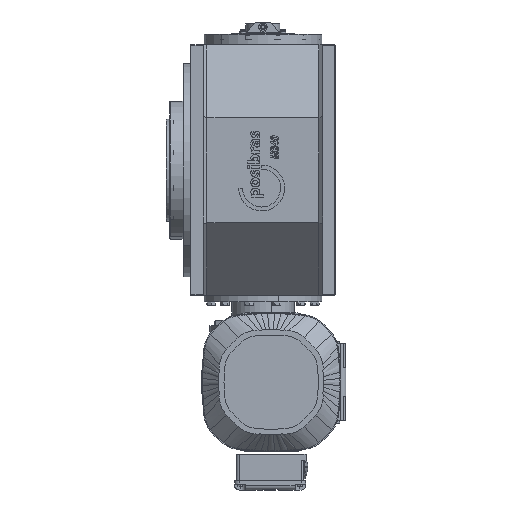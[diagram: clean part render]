
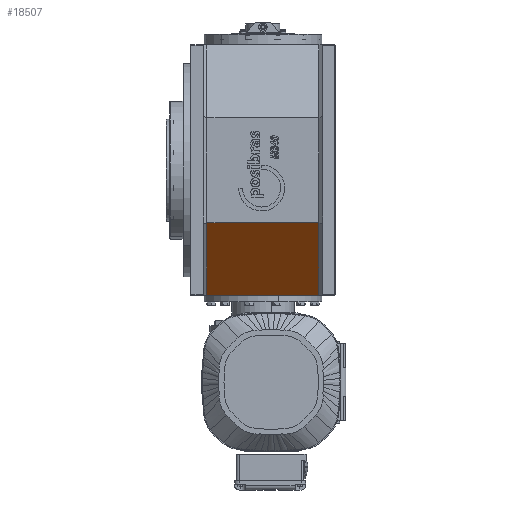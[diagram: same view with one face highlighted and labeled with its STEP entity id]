
A CAD part, left-side view. The second image highlights one B-rep face of the part: STEP entity #18507.
In plain terms, the highlighted planar face has unit normal (-0.707, 0, -0.707).
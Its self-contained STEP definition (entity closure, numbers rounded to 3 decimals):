
#258 = DIRECTION ( 'NONE',  ( 0.707, 0., 0.707 ) ) ;
#2390 = EDGE_CURVE ( 'NONE', #43676, #6210, #71396, .T. ) ;
#6210 = VERTEX_POINT ( 'NONE', #34052 ) ;
#18507 = ADVANCED_FACE ( 'NONE', ( #74086 ), #56337, .F. ) ;
#19381 = CARTESIAN_POINT ( 'NONE',  ( -83.259, 204., -199. ) ) ;
#19668 = LINE ( 'NONE', #47092, #30202 ) ;
#25600 = VERTEX_POINT ( 'NONE', #25604 ) ;
#25604 = CARTESIAN_POINT ( 'NONE',  ( -83.259, 204., -199. ) ) ;
#30202 = VECTOR ( 'NONE', #73461, 1000. ) ;
#31138 = VECTOR ( 'NONE', #32714, 1000. ) ;
#31469 = EDGE_CURVE ( 'NONE', #25600, #43676, #19668, .T. ) ;
#32714 = DIRECTION ( 'NONE',  ( 0.707, 0., -0.707 ) ) ;
#32752 = CARTESIAN_POINT ( 'NONE',  ( -83.259, 26., -199. ) ) ;
#34052 = CARTESIAN_POINT ( 'NONE',  ( -199., 26., -83.259 ) ) ;
#34488 = LINE ( 'NONE', #19381, #31138 ) ;
#36404 = DIRECTION ( 'NONE',  ( -0.707, 0., 0.707 ) ) ;
#43676 = VERTEX_POINT ( 'NONE', #32752 ) ;
#46379 = EDGE_LOOP ( 'NONE', ( #80716, #70784, #60006, #62123 ) ) ;
#47092 = CARTESIAN_POINT ( 'NONE',  ( -83.259, 210., -199. ) ) ;
#50047 = CARTESIAN_POINT ( 'NONE',  ( -199., 26., -83.259 ) ) ;
#51528 = CARTESIAN_POINT ( 'NONE',  ( -199., 210., -83.259 ) ) ;
#55880 = CARTESIAN_POINT ( 'NONE',  ( -199., 210., -83.259 ) ) ;
#56337 = PLANE ( 'NONE',  #87669 ) ;
#60006 = ORIENTED_EDGE ( 'NONE', *, *, #31469, .T. ) ;
#62123 = ORIENTED_EDGE ( 'NONE', *, *, #2390, .T. ) ;
#63569 = VECTOR ( 'NONE', #65592, 1000. ) ;
#65278 = VECTOR ( 'NONE', #36404, 1000. ) ;
#65592 = DIRECTION ( 'NONE',  ( 0., -1., 0. ) ) ;
#69941 = DIRECTION ( 'NONE',  ( 0.707, 0., -0.707 ) ) ;
#70784 = ORIENTED_EDGE ( 'NONE', *, *, #83388, .T. ) ;
#71396 = LINE ( 'NONE', #50047, #65278 ) ;
#71761 = EDGE_CURVE ( 'NONE', #74248, #6210, #86100, .T. ) ;
#73461 = DIRECTION ( 'NONE',  ( 0., -1., 0. ) ) ;
#74086 = FACE_OUTER_BOUND ( 'NONE', #46379, .T. ) ;
#74248 = VERTEX_POINT ( 'NONE', #74336 ) ;
#74336 = CARTESIAN_POINT ( 'NONE',  ( -199., 204., -83.259 ) ) ;
#80716 = ORIENTED_EDGE ( 'NONE', *, *, #71761, .F. ) ;
#83388 = EDGE_CURVE ( 'NONE', #74248, #25600, #34488, .T. ) ;
#86100 = LINE ( 'NONE', #51528, #63569 ) ;
#87669 = AXIS2_PLACEMENT_3D ( 'NONE', #55880, #258, #69941 ) ;
